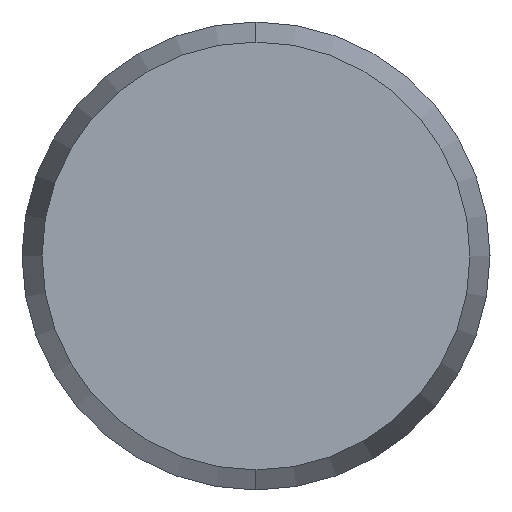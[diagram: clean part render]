
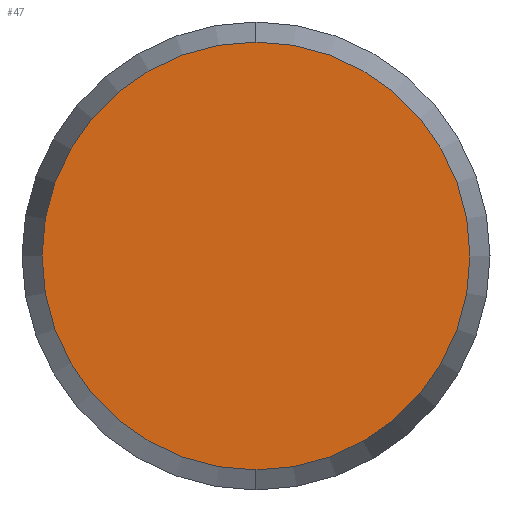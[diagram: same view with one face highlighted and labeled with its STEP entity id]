
A CAD part, left-side view. The second image highlights one B-rep face of the part: STEP entity #47.
In plain terms, the highlighted planar face has unit normal (-1, 0, 0).
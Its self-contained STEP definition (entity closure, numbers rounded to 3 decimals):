
#5 = VERTEX_POINT ( 'NONE', #114 ) ;
#6 = VERTEX_POINT ( 'NONE', #109 ) ;
#12 = EDGE_CURVE ( 'NONE', #6, #5, #98, .T. ) ;
#35 = EDGE_CURVE ( 'NONE', #5, #6, #92, .T. ) ;
#45 = ORIENTED_EDGE ( 'NONE', *, *, #12, .F. ) ;
#47 = ADVANCED_FACE ( 'NONE', ( #144 ), #143, .F. ) ;
#60 = EDGE_LOOP ( 'NONE', ( #45, #61 ) ) ;
#61 = ORIENTED_EDGE ( 'NONE', *, *, #35, .F. ) ;
#89 = DIRECTION ( 'NONE',  ( 0., 0., -1. ) ) ;
#90 = DIRECTION ( 'NONE',  ( 1., 0., 0. ) ) ;
#91 = AXIS2_PLACEMENT_3D ( 'NONE', #108, #90, #89 ) ;
#92 = CIRCLE ( 'NONE', #91, 2.286 ) ;
#94 = DIRECTION ( 'NONE',  ( 0., 0., -1. ) ) ;
#95 = DIRECTION ( 'NONE',  ( 1., 0., 0. ) ) ;
#96 = CARTESIAN_POINT ( 'NONE',  ( -9., 0., 0. ) ) ;
#97 = AXIS2_PLACEMENT_3D ( 'NONE', #96, #95, #94 ) ;
#98 = CIRCLE ( 'NONE', #97, 2.286 ) ;
#108 = CARTESIAN_POINT ( 'NONE',  ( -9., 0., 0. ) ) ;
#109 = CARTESIAN_POINT ( 'NONE',  ( -9., 0., 2.286 ) ) ;
#114 = CARTESIAN_POINT ( 'NONE',  ( -9., 0., -2.286 ) ) ;
#130 = DIRECTION ( 'NONE',  ( 1., 0., 0. ) ) ;
#131 = CARTESIAN_POINT ( 'NONE',  ( -9., 0., 0. ) ) ;
#132 = AXIS2_PLACEMENT_3D ( 'NONE', #131, #130, #137 ) ;
#137 = DIRECTION ( 'NONE',  ( 0., 0., -1. ) ) ;
#143 = PLANE ( 'NONE',  #132 ) ;
#144 = FACE_OUTER_BOUND ( 'NONE', #60, .T. ) ;
